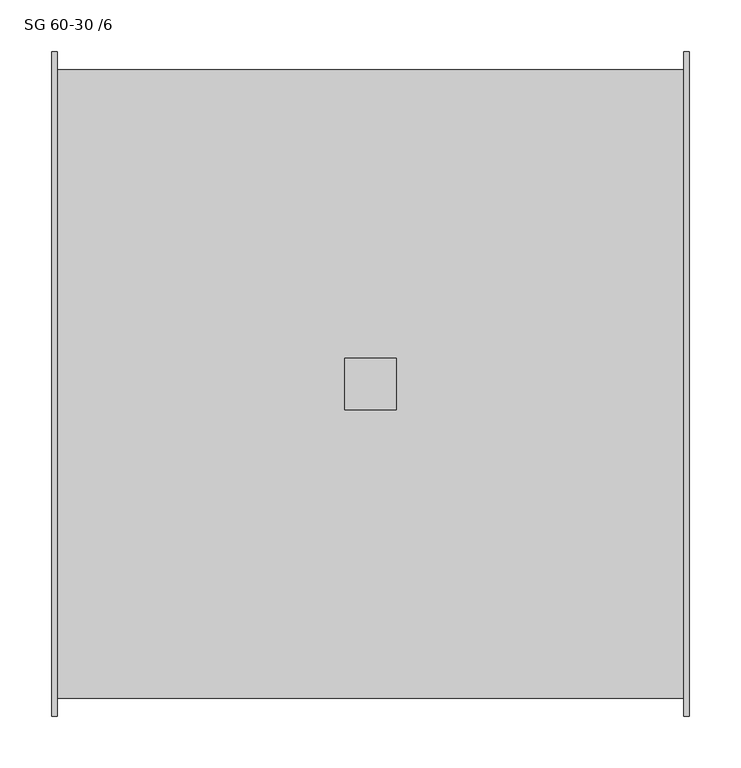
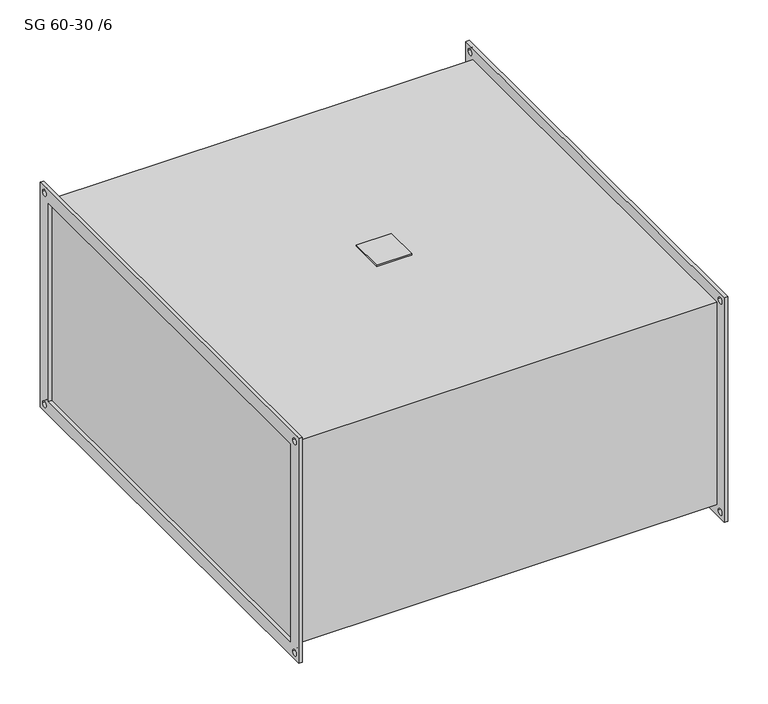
"""IFC4 building model written with IfcOpenShell, lengths in millimetres: damper geometry, KORF_Шумоглушитель_SG : SG 60-30 /6."""

import ifcopenshell
import ifcopenshell.guid

model = None  # the IFC model being written
_history = None  # IfcOwnerHistory: only IFC2X3 demands one
_inside = {}  # id of a spatial element -> (the spatial element, [elements in it])
_under = {}  # id of a project, library or spatial element -> (it, [spatial elements below it])
_declared = {}  # id of a project -> (the project, [libraries it declares])
_typed = {}  # id of a type object -> (the type object, [elements of that type])
_made_of = {}  # id of a material, layer set ... -> (it, [elements and type objects made of it])


def new_model(schema):
    """Start an empty IFC model of exactly this schema.

    Asked for "IFC4X3", IfcOpenShell would pick the latest addendum, in which some entities
    have other attributes; the version numbers below select the first issue.
    IFC2X3 requires an IfcOwnerHistory on every rooted entity: one is made here for all.
    """
    global model, _history
    if schema == "IFC4X3":
        model = ifcopenshell.file(schema_version=(4, 3, 0, 0))
    else:
        model = ifcopenshell.file(schema=schema)
    _inside.clear()
    _under.clear()
    _declared.clear()
    _typed.clear()
    _made_of.clear()
    _history = None
    if model.schema == "IFC2X3":
        org = make("IfcOrganization", Name="unknown")
        user = make(
            "IfcPersonAndOrganization",
            ThePerson=make("IfcPerson", FamilyName="unknown"),
            TheOrganization=org,
        )
        app = make(
            "IfcApplication",
            ApplicationDeveloper=org,
            Version="unknown",
            ApplicationFullName="unknown",
            ApplicationIdentifier="unknown",
        )
        _history = make(
            "IfcOwnerHistory",
            OwningUser=user,
            OwningApplication=app,
            ChangeAction="ADDED",
            CreationDate=0,
        )
    return model


def make(cls, **values):
    """One entity of the class cls with the attributes given. An attribute that is None is left unset."""
    return model.create_entity(
        cls, **{name: value for name, value in values.items() if value is not None}
    )


def rooted(cls, **values):
    """An entity with a GlobalId (a new one), such as an element, a storey or a relation."""
    return make(cls, GlobalId=ifcopenshell.guid.new(), OwnerHistory=_history, **values)


def si_unit(unit_type, name, prefix=None):
    """IfcSIUnit, for example si_unit("LENGTHUNIT", "METRE", prefix="MILLI")."""
    return make("IfcSIUnit", UnitType=unit_type, Prefix=prefix, Name=name)


def assignment(units):
    """IfcUnitAssignment: the units of a project."""
    return None if units is None else make("IfcUnitAssignment", Units=units)


def point(xyz):
    """IfcCartesianPoint."""
    return None if xyz is None else make("IfcCartesianPoint", Coordinates=xyz)


def direction(xyz):
    """IfcDirection."""
    return None if xyz is None else make("IfcDirection", DirectionRatios=xyz)


def frame(location, z_axis=None, x_axis=None):
    """IfcAxis2Placement3D, a coordinate frame: its origin and axes. An axis left out is left unset."""
    return make(
        "IfcAxis2Placement3D",
        Location=point(location),
        Axis=direction(z_axis),
        RefDirection=direction(x_axis),
    )


def frame_2d(location, x_axis=None):
    """IfcAxis2Placement2D, a coordinate frame in the plane: its origin and x axis."""
    return make(
        "IfcAxis2Placement2D", Location=point(location), RefDirection=direction(x_axis)
    )


def origin():
    """The frame at (0, 0, 0) with its axes left unset."""
    return frame((0.0, 0.0, 0.0))


def place(relative_to, where):
    """IfcLocalPlacement: puts the frame where relative to a parent placement (None: the world)."""
    return make(
        "IfcLocalPlacement", PlacementRelTo=relative_to, RelativePlacement=where
    )


def context(
    kind, dimensions, precision=None, world=None, true_north=None, identifier=None
):
    """IfcGeometricRepresentationContext, for example the 3D "Model" context."""
    return make(
        "IfcGeometricRepresentationContext",
        ContextIdentifier=identifier,
        ContextType=kind,
        CoordinateSpaceDimension=dimensions,
        Precision=precision,
        WorldCoordinateSystem=world,
        TrueNorth=true_north,
    )


def project(units=None, contexts=None):
    """IfcProject with its units and contexts."""
    return rooted(
        "IfcProject",
        Name="project",
        RepresentationContexts=contexts,
        UnitsInContext=assignment(units),
    )


def spatial(cls, under=None, at=None, **own):
    """A site, building, storey or space (cls), placed at a placement, below another one or the project."""
    s = rooted(cls, ObjectPlacement=at, **own)
    if under is not None:
        _under.setdefault(under.id(), (under, []))[1].append(s)
    return s


def polyline(points):
    """IfcPolyline through the points."""
    return make("IfcPolyline", Points=[point(p) for p in points])


def circle_curve(where, radius):
    """IfcCircle in the frame where."""
    return make("IfcCircle", Position=where, Radius=radius)


def trimmed(basis, trim1, trim2, sense, master):
    """IfcTrimmedCurve: the piece of a basis curve between two trims."""
    return make(
        "IfcTrimmedCurve",
        BasisCurve=basis,
        Trim1=trim1,
        Trim2=trim2,
        SenseAgreement=sense,
        MasterRepresentation=master,
    )


def segment(curve, same_sense, transition):
    """IfcCompositeCurveSegment."""
    return make(
        "IfcCompositeCurveSegment",
        Transition=transition,
        SameSense=same_sense,
        ParentCurve=curve,
    )


def composite_curve(segments, self_intersect=None):
    """IfcCompositeCurve: segments joined end to end."""
    return make("IfcCompositeCurve", Segments=segments, SelfIntersect=self_intersect)


def outline(outer, holes=None, kind="AREA"):
    """IfcArbitraryClosedProfileDef: a profile drawn as a closed curve; with holes, ...WithVoids."""
    if holes is None:
        return make("IfcArbitraryClosedProfileDef", ProfileType=kind, OuterCurve=outer)
    return make(
        "IfcArbitraryProfileDefWithVoids",
        ProfileType=kind,
        OuterCurve=outer,
        InnerCurves=holes,
    )


def extrude(swept, where, along, depth):
    """IfcExtrudedAreaSolid: the profile swept, set in the frame where, extruded along a direction by depth."""
    return make(
        "IfcExtrudedAreaSolid",
        SweptArea=swept,
        Position=where,
        ExtrudedDirection=direction(along),
        Depth=depth,
    )


def shape(context_of_items, identifier, shape_type, items):
    """IfcShapeRepresentation: the items that make up one representation, for example the "Body"."""
    return make(
        "IfcShapeRepresentation",
        ContextOfItems=context_of_items,
        RepresentationIdentifier=identifier,
        RepresentationType=shape_type,
        Items=items,
    )


def source(mapping_origin, context_of_items, identifier, shape_type, items):
    """IfcRepresentationMap: a shape defined once, which mapped items show again and again."""
    return make(
        "IfcRepresentationMap",
        MappingOrigin=mapping_origin,
        MappedRepresentation=shape(context_of_items, identifier, shape_type, items),
    )


def transform(
    local_origin,
    x_axis=None,
    y_axis=None,
    z_axis=None,
    scale=None,
    scale2=None,
    scale3=None,
    uniform=True,
):
    """IfcCartesianTransformationOperator3D, or its non-uniform kind. x_axis, y_axis, z_axis: its Axis1, 2, 3."""
    if uniform:
        return make(
            "IfcCartesianTransformationOperator3D",
            Axis1=direction(x_axis),
            Axis2=direction(y_axis),
            LocalOrigin=point(local_origin),
            Scale=scale,
            Axis3=direction(z_axis),
        )
    return make(
        "IfcCartesianTransformationOperator3DnonUniform",
        Axis1=direction(x_axis),
        Axis2=direction(y_axis),
        LocalOrigin=point(local_origin),
        Scale=scale,
        Axis3=direction(z_axis),
        Scale2=scale2,
        Scale3=scale3,
    )


def mapped(mapping_source, mapping_target):
    """IfcMappedItem: shows the shape of a source again, moved by a transform."""
    return make(
        "IfcMappedItem", MappingSource=mapping_source, MappingTarget=mapping_target
    )


def made_of(thing, what):
    """Note that an element or type object is made of a material, layer set ...; save() writes the relation."""
    if what is not None:
        _made_of.setdefault(what.id(), (what, []))[1].append(thing)
    return thing


def element(
    cls,
    number,
    at=None,
    inside=None,
    cuts=None,
    type_object=None,
    material=None,
    context=None,
    identifier="Body",
    shape_type=None,
    held_by="IfcProductDefinitionShape",
    body=None,
    shapes=None,
    **own,
):
    """One element of the class cls, such as IfcWall. Its Tag is "e" and its number.

    at: its placement. inside: the storey or other place that contains it. cuts: it is an
    opening in that element (IfcRelVoidsElement). A single representation is given by context,
    identifier, shape_type and body (its items); several are given by shapes. held_by: the class
    of the entity that holds the representations. save() writes the other relations.
    """
    e = rooted(cls, Tag="e%d" % number, ObjectPlacement=at, **own)
    if body is not None:
        shapes = [shape(context, identifier, shape_type, body)]
    if shapes is not None:
        e.Representation = make(held_by, Representations=shapes)
    if inside is not None:
        _inside.setdefault(inside.id(), (inside, []))[1].append(e)
    if cuts is not None:
        rooted(
            "IfcRelVoidsElement", RelatingBuildingElement=cuts, RelatedOpeningElement=e
        )
    if type_object is not None:
        _typed.setdefault(type_object.id(), (type_object, []))[1].append(e)
    return made_of(e, material)


def aggregate(whole, parts):
    """IfcRelAggregates: a whole, such as a stair, and the parts it consists of."""
    return rooted("IfcRelAggregates", RelatingObject=whole, RelatedObjects=parts)


def save(model, path):
    """Write the relations noted so far, then the file.

    IfcRelAggregates (storeys below a building ...), IfcRelContainedInSpatialStructure (elements
    in a storey), IfcRelDefinesByType, IfcRelAssociatesMaterial and IfcRelDeclares: one each for
    every whole, place, type object, material and project.
    """
    for whole, parts in _under.values():
        aggregate(whole, parts)
    for where, things in _inside.values():
        rooted(
            "IfcRelContainedInSpatialStructure",
            RelatedElements=things,
            RelatingStructure=where,
        )
    for kind, things in _typed.values():
        rooted("IfcRelDefinesByType", RelatedObjects=things, RelatingType=kind)
    for what, things in _made_of.values():
        rooted("IfcRelAssociatesMaterial", RelatedObjects=things, RelatingMaterial=what)
    for by, libraries in _declared.values():
        rooted("IfcRelDeclares", RelatingContext=by, RelatedDefinitions=libraries)
    model.write(path)


def sg_60_30_6_74d84c29(model_context):
    return source(origin(), model_context, "Body", "SweptSolid", [
        extrude(outline(polyline([(282.0, -25.0), (282.0, 25.0), (332.0, 25.0), (332.0, -25.0), (282.0, -25.0)])), frame((0.0, 0.0, 153.0), z_axis=(0.0, 0.0, 1.0), x_axis=(1.0, 0.0, 0.0)), (0.0, 0.0, 1.0), 2.0),
        extrude(outline(polyline([(-320.0, 170.0), (320.0, 170.0), (320.0, -170.0), (-320.0, -170.0), (-320.0, 170.0)]), holes=[polyline([(-300.0, 150.0), (-300.0, -150.0), (300.0, -150.0), (300.0, 150.0), (-300.0, 150.0)]), composite_curve([segment(trimmed(circle_curve(frame_2d((310.0, 160.0)), 4.5), [point((305.5, 160.0))], [point((314.5, 160.0))], True, "CARTESIAN"), True, "CONTINUOUS"), segment(trimmed(circle_curve(frame_2d((310.0, 160.0)), 4.5), [point((314.5, 160.0))], [point((305.5, 160.0))], True, "CARTESIAN"), True, "CONTINUOUS")], self_intersect=False), composite_curve([segment(trimmed(circle_curve(frame_2d((-310.0, 160.0)), 4.5), [point((-314.5, 160.0))], [point((-305.5, 160.0))], True, "CARTESIAN"), True, "CONTINUOUS"), segment(trimmed(circle_curve(frame_2d((-310.0, 160.0)), 4.5), [point((-305.5, 160.0))], [point((-314.5, 160.0))], True, "CARTESIAN"), True, "CONTINUOUS")], self_intersect=False), composite_curve([segment(trimmed(circle_curve(frame_2d((-310.0, -160.0)), 4.5), [point((-314.5, -160.0))], [point((-305.5, -160.0))], True, "CARTESIAN"), True, "CONTINUOUS"), segment(trimmed(circle_curve(frame_2d((-310.0, -160.0)), 4.5), [point((-305.5, -160.0))], [point((-314.5, -160.0))], True, "CARTESIAN"), True, "CONTINUOUS")], self_intersect=False), composite_curve([segment(trimmed(circle_curve(frame_2d((310.0, -160.0)), 4.5), [point((305.5, -160.0))], [point((314.5, -160.0))], True, "CARTESIAN"), True, "CONTINUOUS"), segment(trimmed(circle_curve(frame_2d((310.0, -160.0)), 4.5), [point((314.5, -160.0))], [point((305.5, -160.0))], True, "CARTESIAN"), True, "CONTINUOUS")], self_intersect=False)]), frame((609.0, 0.0, 0.0), z_axis=(1.0, 0.0, 0.0), x_axis=(0.0, 1.0, 0.0)), (0.0, 0.0, 1.0), 5.0),
        extrude(outline(polyline([(-320.0, 170.0), (320.0, 170.0), (320.0, -170.0), (-320.0, -170.0), (-320.0, 170.0)]), holes=[polyline([(-300.0, 150.0), (-300.0, -150.0), (300.0, -150.0), (300.0, 150.0), (-300.0, 150.0)]), composite_curve([segment(trimmed(circle_curve(frame_2d((310.0, 160.0)), 4.5), [point((305.5, 160.0))], [point((314.5, 160.0))], True, "CARTESIAN"), True, "CONTINUOUS"), segment(trimmed(circle_curve(frame_2d((310.0, 160.0)), 4.5), [point((314.5, 160.0))], [point((305.5, 160.0))], True, "CARTESIAN"), True, "CONTINUOUS")], self_intersect=False), composite_curve([segment(trimmed(circle_curve(frame_2d((-310.0, 160.0)), 4.5), [point((-314.5, 160.0))], [point((-305.5, 160.0))], True, "CARTESIAN"), True, "CONTINUOUS"), segment(trimmed(circle_curve(frame_2d((-310.0, 160.0)), 4.5), [point((-305.5, 160.0))], [point((-314.5, 160.0))], True, "CARTESIAN"), True, "CONTINUOUS")], self_intersect=False), composite_curve([segment(trimmed(circle_curve(frame_2d((-310.0, -160.0)), 4.5), [point((-314.5, -160.0))], [point((-305.5, -160.0))], True, "CARTESIAN"), True, "CONTINUOUS"), segment(trimmed(circle_curve(frame_2d((-310.0, -160.0)), 4.5), [point((-305.5, -160.0))], [point((-314.5, -160.0))], True, "CARTESIAN"), True, "CONTINUOUS")], self_intersect=False), composite_curve([segment(trimmed(circle_curve(frame_2d((310.0, -160.0)), 4.5), [point((305.5, -160.0))], [point((314.5, -160.0))], True, "CARTESIAN"), True, "CONTINUOUS"), segment(trimmed(circle_curve(frame_2d((310.0, -160.0)), 4.5), [point((314.5, -160.0))], [point((305.5, -160.0))], True, "CARTESIAN"), True, "CONTINUOUS")], self_intersect=False)]), frame((0.0, 0.0, 0.0), z_axis=(1.0, 0.0, 0.0), x_axis=(0.0, 1.0, 0.0)), (0.0, 0.0, 1.0), 5.0),
        extrude(outline(polyline([(609.0, 303.0), (609.0, -303.0), (5.0, -303.0), (5.0, 303.0), (609.0, 303.0)])), frame((0.0, 0.0, -153.0), z_axis=(0.0, 0.0, 1.0), x_axis=(1.0, 0.0, 0.0)), (0.0, 0.0, 1.0), 306.0),
    ])


if __name__ == "__main__":
    model = new_model("IFC4")
    model_context = context("Model", 3, world=origin())
    ifc_project = project(units=[si_unit("LENGTHUNIT", "METRE", prefix="MILLI")], contexts=[model_context])
    site = spatial("IfcSite", under=ifc_project)
    building = spatial("IfcBuilding", under=site)
    placement = place(None, origin())
    sg_60_30_6_shape = sg_60_30_6_74d84c29(model_context)
    element("IfcDamper", 1, ObjectType="KORF_Шумоглушитель_SG : SG 60-30 /6", at=placement, inside=building, context=model_context, shape_type="MappedRepresentation", body=[
        mapped(sg_60_30_6_shape, transform((0.0, 0.0, 0.0), x_axis=(1.0, 0.0, 0.0), y_axis=(0.0, 1.0, 0.0), z_axis=(0.0, 0.0, 1.0))),
    ])
    save(model, "model.ifc")
